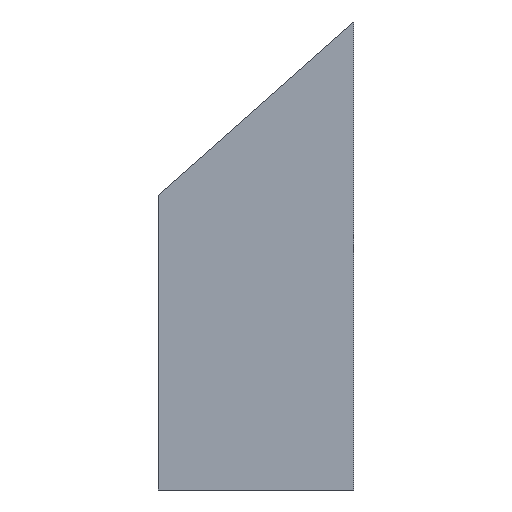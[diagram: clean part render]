
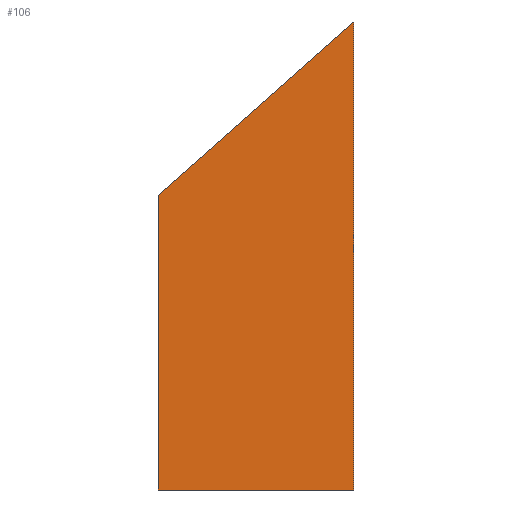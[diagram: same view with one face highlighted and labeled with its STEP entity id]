
A CAD part, left-side view. The second image highlights one B-rep face of the part: STEP entity #106.
In plain terms, the highlighted planar face has unit normal (-1, 0, 0).
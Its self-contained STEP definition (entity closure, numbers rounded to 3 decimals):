
#20=FACE_OUTER_BOUND('',#26,.T.);
#26=EDGE_LOOP('',(#91,#92,#93,#94));
#29=LINE('',#161,#41);
#32=LINE('',#167,#44);
#35=LINE('',#173,#47);
#38=LINE('',#177,#50);
#41=VECTOR('',#133,10.);
#44=VECTOR('',#138,10.);
#47=VECTOR('',#143,10.);
#50=VECTOR('',#148,10.);
#53=VERTEX_POINT('',#158);
#54=VERTEX_POINT('',#160);
#56=VERTEX_POINT('',#166);
#58=VERTEX_POINT('',#172);
#61=EDGE_CURVE('',#54,#53,#29,.T.);
#64=EDGE_CURVE('',#56,#54,#32,.T.);
#67=EDGE_CURVE('',#58,#56,#35,.T.);
#70=EDGE_CURVE('',#53,#58,#38,.T.);
#91=ORIENTED_EDGE('',*,*,#70,.T.);
#92=ORIENTED_EDGE('',*,*,#67,.T.);
#93=ORIENTED_EDGE('',*,*,#64,.T.);
#94=ORIENTED_EDGE('',*,*,#61,.T.);
#100=PLANE('',#126);
#106=ADVANCED_FACE('',(#20),#100,.T.);
#126=AXIS2_PLACEMENT_3D('',#179,#151,#152);
#133=DIRECTION('',(0.,-1.,0.));
#138=DIRECTION('',(0.,0.,-1.));
#143=DIRECTION('',(0.,0.748,-0.663));
#148=DIRECTION('',(0.,0.,1.));
#151=DIRECTION('center_axis',(-1.,0.,0.));
#152=DIRECTION('ref_axis',(0.,0.,1.));
#158=CARTESIAN_POINT('',(-3.,-115.485,-56.541));
#160=CARTESIAN_POINT('',(-3.,-9.485,-56.541));
#161=CARTESIAN_POINT('',(-3.,-9.485,-56.541));
#166=CARTESIAN_POINT('',(-3.,-9.485,103.459));
#167=CARTESIAN_POINT('',(-3.,-9.485,103.459));
#172=CARTESIAN_POINT('',(-3.,-115.485,197.459));
#173=CARTESIAN_POINT('',(-3.,-115.485,197.459));
#177=CARTESIAN_POINT('',(-3.,-115.485,-56.541));
#179=CARTESIAN_POINT('Origin',(-3.,-62.485,70.459));
